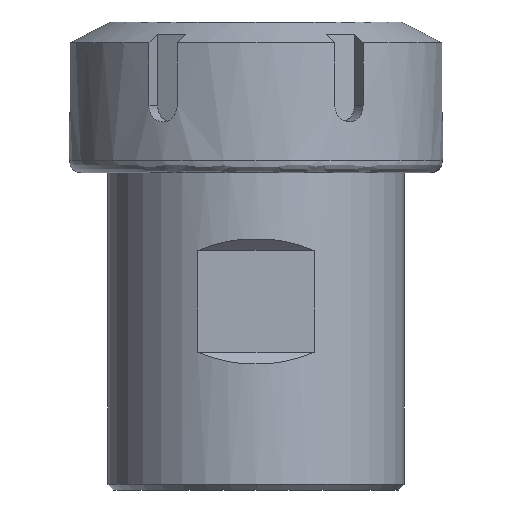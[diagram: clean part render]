
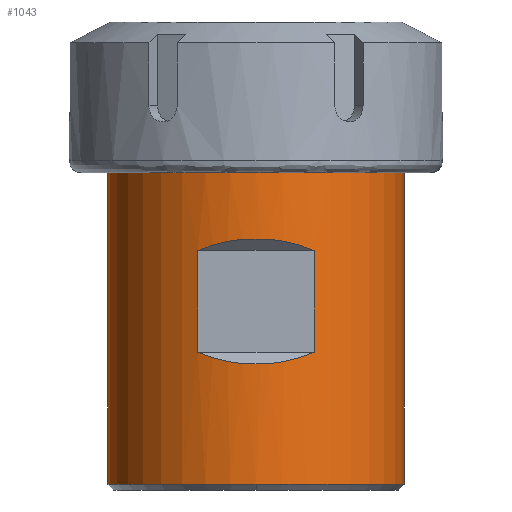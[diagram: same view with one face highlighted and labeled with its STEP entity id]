
A CAD part, front view. The second image highlights one B-rep face of the part: STEP entity #1043.
In plain terms, the highlighted cylindrical face has radius 25 mm (diameter 50 mm), a partial arc.
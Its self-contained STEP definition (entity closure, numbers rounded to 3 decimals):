
#4 = DIRECTION ( 'NONE',  ( 0., 0., -1. ) ) ;
#5 = VECTOR ( 'NONE', #4, 1000. ) ;
#6 = CARTESIAN_POINT ( 'NONE',  ( 9.798, -23., 0. ) ) ;
#7 = LINE ( 'NONE', #6, #5 ) ;
#8 = DIRECTION ( 'NONE',  ( 0., 0., 1. ) ) ;
#9 = VECTOR ( 'NONE', #8, 1000. ) ;
#10 = CARTESIAN_POINT ( 'NONE',  ( -9.798, -23., 0. ) ) ;
#14 = LINE ( 'NONE', #10, #9 ) ;
#95 = CARTESIAN_POINT ( 'NONE',  ( 2.234, -24.9, 42.33 ) ) ;
#96 = CARTESIAN_POINT ( 'NONE',  ( -2.234, -24.9, 42.33 ) ) ;
#97 = DIRECTION ( 'NONE',  ( 1., 0., 0. ) ) ;
#98 = DIRECTION ( 'NONE',  ( 0., 0., 1. ) ) ;
#99 = CARTESIAN_POINT ( 'NONE',  ( 0., 0., 42.33 ) ) ;
#100 = AXIS2_PLACEMENT_3D ( 'NONE', #99, #98, #97 ) ;
#101 = CIRCLE ( 'NONE', #100, 25. ) ;
#114 = CARTESIAN_POINT ( 'NONE',  ( 7.387, -24.027, 22.203 ) ) ;
#115 = CARTESIAN_POINT ( 'NONE',  ( 9.798, -23., 23.23 ) ) ;
#116 = CARTESIAN_POINT ( 'NONE',  ( 9.798, -23., 23.23 ) ) ;
#117 =( BOUNDED_CURVE ( )  B_SPLINE_CURVE ( 3, ( #115, #114, #155, #154 ),
 .UNSPECIFIED., .F., .T. ) 
 B_SPLINE_CURVE_WITH_KNOTS ( ( 4, 4 ),
 ( 2.739, 3.052 ),
 .UNSPECIFIED. ) 
 CURVE ( )  GEOMETRIC_REPRESENTATION_ITEM ( )  RATIONAL_B_SPLINE_CURVE ( ( 1., 0.992, 0.992, 1. ) ) 
 REPRESENTATION_ITEM ( '' )  );
#129 = DIRECTION ( 'NONE',  ( 1., 0., 0. ) ) ;
#130 = DIRECTION ( 'NONE',  ( 0., 0., 1. ) ) ;
#131 = CARTESIAN_POINT ( 'NONE',  ( 0., 0., 0. ) ) ;
#132 = AXIS2_PLACEMENT_3D ( 'NONE', #131, #130, #129 ) ;
#133 = CYLINDRICAL_SURFACE ( 'NONE', #132, 25. ) ;
#134 = FACE_BOUND ( 'NONE', #1146, .T. ) ;
#135 = FACE_OUTER_BOUND ( 'NONE', #1044, .T. ) ;
#136 = DIRECTION ( 'NONE',  ( 1., 0., 0. ) ) ;
#137 = DIRECTION ( 'NONE',  ( 0., 0., 1. ) ) ;
#138 = CARTESIAN_POINT ( 'NONE',  ( 0., 0., 1. ) ) ;
#145 = DIRECTION ( 'NONE',  ( 1., 0., 0. ) ) ;
#146 = DIRECTION ( 'NONE',  ( 0., 0., -1. ) ) ;
#147 = CARTESIAN_POINT ( 'NONE',  ( 0., 0., 53.55 ) ) ;
#148 = AXIS2_PLACEMENT_3D ( 'NONE', #147, #146, #145 ) ;
#149 = CIRCLE ( 'NONE', #148, 25. ) ;
#154 = CARTESIAN_POINT ( 'NONE',  ( 2.234, -24.9, 21.33 ) ) ;
#155 = CARTESIAN_POINT ( 'NONE',  ( 4.844, -24.666, 21.564 ) ) ;
#182 = CARTESIAN_POINT ( 'NONE',  ( 9.798, -23., 40.43 ) ) ;
#183 = CARTESIAN_POINT ( 'NONE',  ( 7.387, -24.027, 41.457 ) ) ;
#184 = CARTESIAN_POINT ( 'NONE',  ( 4.844, -24.666, 42.096 ) ) ;
#185 = CARTESIAN_POINT ( 'NONE',  ( 2.234, -24.9, 42.33 ) ) ;
#186 =( BOUNDED_CURVE ( )  B_SPLINE_CURVE ( 3, ( #185, #184, #183, #182 ),
 .UNSPECIFIED., .F., .T. ) 
 B_SPLINE_CURVE_WITH_KNOTS ( ( 4, 4 ),
 ( 0.089, 0.403 ),
 .UNSPECIFIED. ) 
 CURVE ( )  GEOMETRIC_REPRESENTATION_ITEM ( )  RATIONAL_B_SPLINE_CURVE ( ( 1., 0.992, 0.992, 1. ) ) 
 REPRESENTATION_ITEM ( '' )  );
#192 = CIRCLE ( 'NONE', #197, 25. ) ;
#197 = AXIS2_PLACEMENT_3D ( 'NONE', #138, #137, #136 ) ;
#207 = CARTESIAN_POINT ( 'NONE',  ( -2.234, -24.9, 21.33 ) ) ;
#208 = DIRECTION ( 'NONE',  ( 1., 0., 0. ) ) ;
#209 = DIRECTION ( 'NONE',  ( 0., 0., -1. ) ) ;
#210 = CARTESIAN_POINT ( 'NONE',  ( 0., 0., 21.33 ) ) ;
#211 = AXIS2_PLACEMENT_3D ( 'NONE', #210, #209, #208 ) ;
#223 = CARTESIAN_POINT ( 'NONE',  ( 9.798, -23., 40.43 ) ) ;
#224 = CARTESIAN_POINT ( 'NONE',  ( -9.798, -23., 40.43 ) ) ;
#287 = CIRCLE ( 'NONE', #211, 25. ) ;
#288 = CARTESIAN_POINT ( 'NONE',  ( 2.234, -24.9, 21.33 ) ) ;
#295 =( BOUNDED_CURVE ( )  B_SPLINE_CURVE ( 3, ( #357, #356, #355, #354 ),
 .UNSPECIFIED., .F., .T. ) 
 B_SPLINE_CURVE_WITH_KNOTS ( ( 4, 4 ),
 ( 5.88, 6.194 ),
 .UNSPECIFIED. ) 
 CURVE ( )  GEOMETRIC_REPRESENTATION_ITEM ( )  RATIONAL_B_SPLINE_CURVE ( ( 1., 0.992, 0.992, 1. ) ) 
 REPRESENTATION_ITEM ( '' )  );
#354 = CARTESIAN_POINT ( 'NONE',  ( -2.234, -24.9, 42.33 ) ) ;
#355 = CARTESIAN_POINT ( 'NONE',  ( -4.844, -24.666, 42.096 ) ) ;
#356 = CARTESIAN_POINT ( 'NONE',  ( -7.387, -24.027, 41.457 ) ) ;
#357 = CARTESIAN_POINT ( 'NONE',  ( -9.798, -23., 40.43 ) ) ;
#490 = CARTESIAN_POINT ( 'NONE',  ( -9.798, -23., 23.23 ) ) ;
#491 = CARTESIAN_POINT ( 'NONE',  ( -7.387, -24.027, 22.203 ) ) ;
#492 = CARTESIAN_POINT ( 'NONE',  ( -4.844, -24.666, 21.564 ) ) ;
#493 = CARTESIAN_POINT ( 'NONE',  ( -2.234, -24.9, 21.33 ) ) ;
#496 =( BOUNDED_CURVE ( )  B_SPLINE_CURVE ( 3, ( #493, #492, #491, #502 ),
 .UNSPECIFIED., .F., .T. ) 
 B_SPLINE_CURVE_WITH_KNOTS ( ( 4, 4 ),
 ( 3.231, 3.544 ),
 .UNSPECIFIED. ) 
 CURVE ( )  GEOMETRIC_REPRESENTATION_ITEM ( )  RATIONAL_B_SPLINE_CURVE ( ( 1., 0.992, 0.992, 1. ) ) 
 REPRESENTATION_ITEM ( '' )  );
#502 = CARTESIAN_POINT ( 'NONE',  ( -9.798, -23., 23.23 ) ) ;
#680 = VERTEX_POINT ( 'NONE', #1502 ) ;
#682 = EDGE_CURVE ( 'NONE', #680, #683, #1512, .T. ) ;
#683 = VERTEX_POINT ( 'NONE', #1450 ) ;
#684 = VERTEX_POINT ( 'NONE', #1461 ) ;
#686 = VERTEX_POINT ( 'NONE', #1483 ) ;
#746 = EDGE_CURVE ( 'NONE', #747, #684, #1636, .T. ) ;
#747 = VERTEX_POINT ( 'NONE', #1632 ) ;
#772 = EDGE_CURVE ( 'NONE', #686, #747, #1601, .T. ) ;
#988 = EDGE_CURVE ( 'NONE', #1126, #989, #496, .T. ) ;
#989 = VERTEX_POINT ( 'NONE', #490 ) ;
#1018 = EDGE_CURVE ( 'NONE', #1019, #1020, #101, .T. ) ;
#1019 = VERTEX_POINT ( 'NONE', #96 ) ;
#1020 = VERTEX_POINT ( 'NONE', #95 ) ;
#1022 = EDGE_CURVE ( 'NONE', #1023, #1125, #117, .T. ) ;
#1023 = VERTEX_POINT ( 'NONE', #116 ) ;
#1026 = EDGE_CURVE ( 'NONE', #684, #683, #149, .T. ) ;
#1028 = ORIENTED_EDGE ( 'NONE', *, *, #682, .F. ) ;
#1029 = ORIENTED_EDGE ( 'NONE', *, *, #1041, .T. ) ;
#1030 = ORIENTED_EDGE ( 'NONE', *, *, #772, .T. ) ;
#1031 = ORIENTED_EDGE ( 'NONE', *, *, #746, .T. ) ;
#1032 = ORIENTED_EDGE ( 'NONE', *, *, #1026, .T. ) ;
#1041 = EDGE_CURVE ( 'NONE', #680, #686, #192, .T. ) ;
#1043 = ADVANCED_FACE ( 'NONE', ( #135, #134 ), #133, .T. ) ;
#1044 = EDGE_LOOP ( 'NONE', ( #1028, #1029, #1030, #1031, #1032 ) ) ;
#1053 = EDGE_CURVE ( 'NONE', #989, #1091, #14, .T. ) ;
#1056 = EDGE_CURVE ( 'NONE', #1092, #1023, #7, .T. ) ;
#1060 = EDGE_CURVE ( 'NONE', #1020, #1092, #186, .T. ) ;
#1091 = VERTEX_POINT ( 'NONE', #224 ) ;
#1092 = VERTEX_POINT ( 'NONE', #223 ) ;
#1124 = EDGE_CURVE ( 'NONE', #1125, #1126, #287, .T. ) ;
#1125 = VERTEX_POINT ( 'NONE', #288 ) ;
#1126 = VERTEX_POINT ( 'NONE', #207 ) ;
#1127 = ORIENTED_EDGE ( 'NONE', *, *, #1053, .T. ) ;
#1128 = ORIENTED_EDGE ( 'NONE', *, *, #1142, .T. ) ;
#1129 = ORIENTED_EDGE ( 'NONE', *, *, #1018, .T. ) ;
#1130 = ORIENTED_EDGE ( 'NONE', *, *, #1060, .T. ) ;
#1131 = ORIENTED_EDGE ( 'NONE', *, *, #1056, .T. ) ;
#1132 = ORIENTED_EDGE ( 'NONE', *, *, #1022, .T. ) ;
#1133 = ORIENTED_EDGE ( 'NONE', *, *, #1124, .T. ) ;
#1134 = ORIENTED_EDGE ( 'NONE', *, *, #988, .T. ) ;
#1142 = EDGE_CURVE ( 'NONE', #1091, #1019, #295, .T. ) ;
#1146 = EDGE_LOOP ( 'NONE', ( #1127, #1128, #1129, #1130, #1131, #1132, #1133, #1134 ) ) ;
#1450 = CARTESIAN_POINT ( 'NONE',  ( -25., 0., 53.55 ) ) ;
#1461 = CARTESIAN_POINT ( 'NONE',  ( 25., 0., 53.55 ) ) ;
#1462 = VECTOR ( 'NONE', #1511, 1000. ) ;
#1483 = CARTESIAN_POINT ( 'NONE',  ( 0., -25., 1. ) ) ;
#1502 = CARTESIAN_POINT ( 'NONE',  ( -25., 0., 1. ) ) ;
#1510 = CARTESIAN_POINT ( 'NONE',  ( -25., 0., 0. ) ) ;
#1511 = DIRECTION ( 'NONE',  ( 0., 0., 1. ) ) ;
#1512 = LINE ( 'NONE', #1510, #1462 ) ;
#1597 = DIRECTION ( 'NONE',  ( 1., 0., 0. ) ) ;
#1598 = DIRECTION ( 'NONE',  ( 0., 0., 1. ) ) ;
#1599 = CARTESIAN_POINT ( 'NONE',  ( 0., 0., 1. ) ) ;
#1600 = AXIS2_PLACEMENT_3D ( 'NONE', #1599, #1598, #1597 ) ;
#1601 = CIRCLE ( 'NONE', #1600, 25. ) ;
#1632 = CARTESIAN_POINT ( 'NONE',  ( 25., 0., 1. ) ) ;
#1633 = DIRECTION ( 'NONE',  ( 0., 0., 1. ) ) ;
#1634 = VECTOR ( 'NONE', #1633, 1000. ) ;
#1635 = CARTESIAN_POINT ( 'NONE',  ( 25., 0., 0. ) ) ;
#1636 = LINE ( 'NONE', #1635, #1634 ) ;
